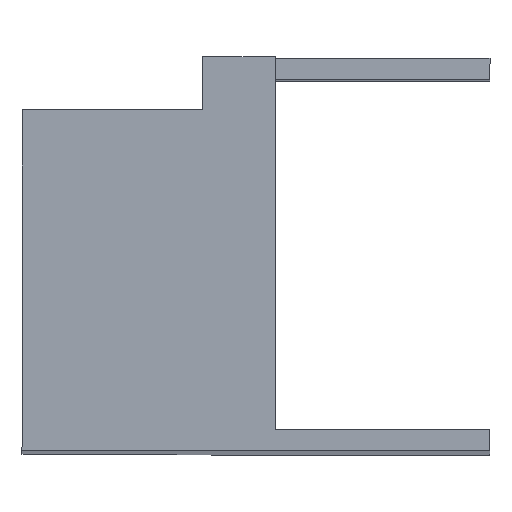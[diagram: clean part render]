
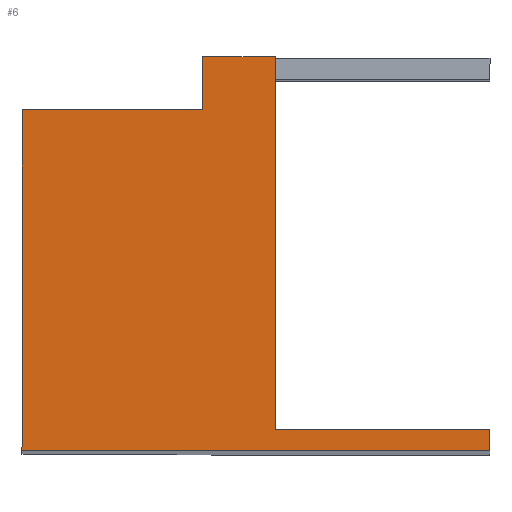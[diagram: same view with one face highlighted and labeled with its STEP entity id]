
A CAD part, top view. The second image highlights one B-rep face of the part: STEP entity #6.
In plain terms, the highlighted planar face has unit normal (0, 0, 1).
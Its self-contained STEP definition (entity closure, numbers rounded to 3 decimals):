
#6 = ADVANCED_FACE ( 'NONE', ( #632 ), #843, .F. ) ;
#32 = DIRECTION ( 'NONE',  ( 0., 1., 0. ) ) ;
#53 = CARTESIAN_POINT ( 'NONE',  ( -6.1, -16.5, 80.6 ) ) ;
#59 = DIRECTION ( 'NONE',  ( 1., 0., 0. ) ) ;
#66 = DIRECTION ( 'NONE',  ( 1., 0., 0. ) ) ;
#76 = CARTESIAN_POINT ( 'NONE',  ( -18., -17.5, 80.6 ) ) ;
#80 = CARTESIAN_POINT ( 'NONE',  ( -6.1, 1., 80.6 ) ) ;
#93 = CARTESIAN_POINT ( 'NONE',  ( 4., -17.5, 80.6 ) ) ;
#100 = DIRECTION ( 'NONE',  ( -1., 0., 0. ) ) ;
#116 = CARTESIAN_POINT ( 'NONE',  ( -6.1, 1., 80.6 ) ) ;
#121 = CARTESIAN_POINT ( 'NONE',  ( -18., -1.5, 80.6 ) ) ;
#127 = CARTESIAN_POINT ( 'NONE',  ( -9.5, 1., 80.6 ) ) ;
#150 = CARTESIAN_POINT ( 'NONE',  ( -9.5, -1.5, 80.6 ) ) ;
#164 = CARTESIAN_POINT ( 'NONE',  ( -6.1, -16.5, 80.6 ) ) ;
#170 = CARTESIAN_POINT ( 'NONE',  ( -18., -1.5, 80.6 ) ) ;
#176 = CARTESIAN_POINT ( 'NONE',  ( -9.5, -1.5, 80.6 ) ) ;
#205 = DIRECTION ( 'NONE',  ( 0., -1., 0. ) ) ;
#215 = CARTESIAN_POINT ( 'NONE',  ( 4., -16.5, 80.6 ) ) ;
#222 = CARTESIAN_POINT ( 'NONE',  ( -9.5, 1., 80.6 ) ) ;
#225 = DIRECTION ( 'NONE',  ( 0., 1., 0. ) ) ;
#228 = CARTESIAN_POINT ( 'NONE',  ( 4., -16.5, 80.6 ) ) ;
#229 = DIRECTION ( 'NONE',  ( 1., 0., 0. ) ) ;
#238 = DIRECTION ( 'NONE',  ( 0., -1., 0. ) ) ;
#244 = CARTESIAN_POINT ( 'NONE',  ( 4., -17.5, 80.6 ) ) ;
#253 = CARTESIAN_POINT ( 'NONE',  ( -18., -17.5, 80.6 ) ) ;
#258 = VERTEX_POINT ( 'NONE', #228 ) ;
#261 = VERTEX_POINT ( 'NONE', #244 ) ;
#282 = AXIS2_PLACEMENT_3D ( 'NONE', #855, #756, #817 ) ;
#288 = EDGE_CURVE ( 'NONE', #788, #768, #664, .T. ) ;
#292 = EDGE_CURVE ( 'NONE', #261, #845, #630, .T. ) ;
#295 = EDGE_CURVE ( 'NONE', #258, #261, #635, .T. ) ;
#339 = EDGE_CURVE ( 'NONE', #845, #837, #586, .T. ) ;
#348 = EDGE_CURVE ( 'NONE', #768, #258, #680, .T. ) ;
#357 = EDGE_CURVE ( 'NONE', #807, #788, #682, .T. ) ;
#359 = EDGE_CURVE ( 'NONE', #789, #807, #707, .T. ) ;
#375 = EDGE_CURVE ( 'NONE', #837, #789, #730, .T. ) ;
#418 = EDGE_LOOP ( 'NONE', ( #482, #529, #475, #504, #478, #530, #567, #435 ) ) ;
#435 = ORIENTED_EDGE ( 'NONE', *, *, #375, .F. ) ;
#475 = ORIENTED_EDGE ( 'NONE', *, *, #295, .F. ) ;
#478 = ORIENTED_EDGE ( 'NONE', *, *, #288, .F. ) ;
#482 = ORIENTED_EDGE ( 'NONE', *, *, #339, .F. ) ;
#504 = ORIENTED_EDGE ( 'NONE', *, *, #348, .F. ) ;
#529 = ORIENTED_EDGE ( 'NONE', *, *, #292, .F. ) ;
#530 = ORIENTED_EDGE ( 'NONE', *, *, #357, .F. ) ;
#567 = ORIENTED_EDGE ( 'NONE', *, *, #359, .F. ) ;
#586 = LINE ( 'NONE', #121, #681 ) ;
#609 = VECTOR ( 'NONE', #100, 1000. ) ;
#630 = LINE ( 'NONE', #253, #609 ) ;
#632 = FACE_OUTER_BOUND ( 'NONE', #418, .T. ) ;
#635 = LINE ( 'NONE', #93, #736 ) ;
#646 = VECTOR ( 'NONE', #229, 1000. ) ;
#664 = LINE ( 'NONE', #164, #666 ) ;
#666 = VECTOR ( 'NONE', #238, 1000. ) ;
#680 = LINE ( 'NONE', #215, #646 ) ;
#681 = VECTOR ( 'NONE', #32, 1000. ) ;
#682 = LINE ( 'NONE', #116, #693 ) ;
#693 = VECTOR ( 'NONE', #66, 1000. ) ;
#707 = LINE ( 'NONE', #222, #709 ) ;
#709 = VECTOR ( 'NONE', #225, 1000. ) ;
#730 = LINE ( 'NONE', #176, #731 ) ;
#731 = VECTOR ( 'NONE', #59, 1000. ) ;
#736 = VECTOR ( 'NONE', #205, 1000. ) ;
#756 = DIRECTION ( 'NONE',  ( 0., 0., -1. ) ) ;
#768 = VERTEX_POINT ( 'NONE', #53 ) ;
#788 = VERTEX_POINT ( 'NONE', #80 ) ;
#789 = VERTEX_POINT ( 'NONE', #150 ) ;
#807 = VERTEX_POINT ( 'NONE', #127 ) ;
#817 = DIRECTION ( 'NONE',  ( 0., -1., 0. ) ) ;
#837 = VERTEX_POINT ( 'NONE', #170 ) ;
#843 = PLANE ( 'NONE',  #282 ) ;
#845 = VERTEX_POINT ( 'NONE', #76 ) ;
#855 = CARTESIAN_POINT ( 'NONE',  ( -18., -17.5, 80.6 ) ) ;
